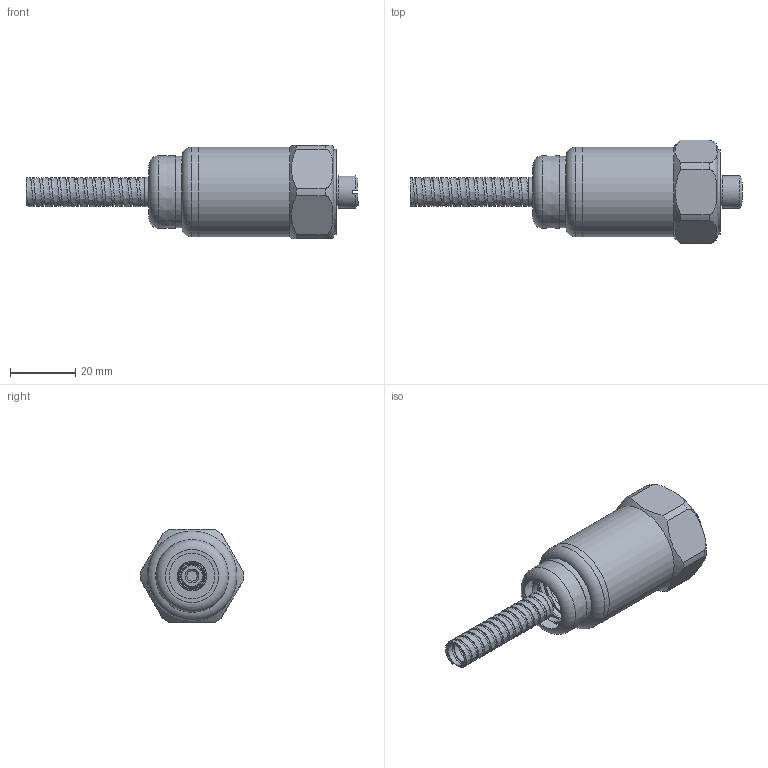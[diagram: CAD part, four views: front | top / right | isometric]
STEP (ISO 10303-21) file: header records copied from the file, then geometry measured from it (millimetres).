
FILE_DESCRIPTION(/* description */ (''),/* implementation_level */ '2;1');
FILE_NAME(/* name */ 'Z:\Engineering\Drawings\3D Library\Assemblies\Website\420 Velocity Top\HS-420XXX30C10.stp',/* time_stamp */ '2023-05-03T15:09:43+01:00',/* author */ ('Ricardo.Peneda'),/* organization */ (''),/* preprocessor_version */ 'ST-DEVELOPER v18.1',/* originating_system */ 'Autodesk Inventor 2021',/* authorisation */ '');
FILE_SCHEMA (('AUTOMOTIVE_DESIGN { 1 0 10303 214 3 1 1 }'));
Length unit declared in the file: inch
Products named in the file (1): HS-420XXX30C10_Shrinkwrap_1
Bounding box: 101.5 x 31.69 x 28.5 mm (x, y, z)
Volume: 14750.3 mm3; surface area: 15109.6 mm2
Topology: 5 solids, 5 shells, 99 faces, 266 edges, 186 vertices
Faces by surface type: plane 34, cone 31, cylinder 22, bspline 8, torus 4
Full cylindrical faces by diameter (mm): 5 x1, 6.3 x1, 6.35 x1, 7 x1, 7.5 x1, 8.5 x1, 9 x1, 10 x1, 20 x1, 22 x1, 23.3 x1, 25.3 x2, 26 x1, 27.5 x2
Entity records: 17434 total; most frequent: CARTESIAN_POINT 14732, DIRECTION 558, ORIENTED_EDGE 532, EDGE_CURVE 266, AXIS2_PLACEMENT_3D 238, VERTEX_POINT 186, CIRCLE 146, EDGE_LOOP 112
